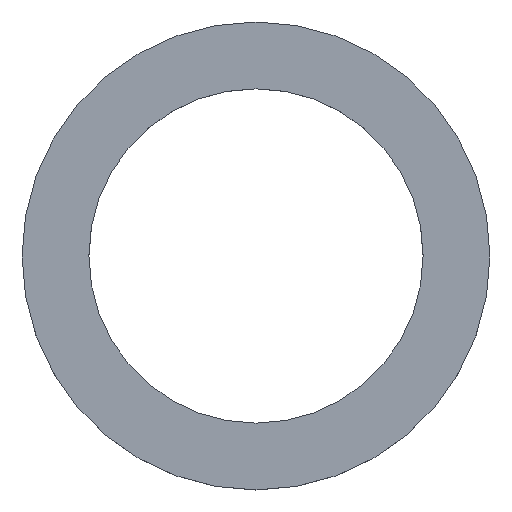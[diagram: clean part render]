
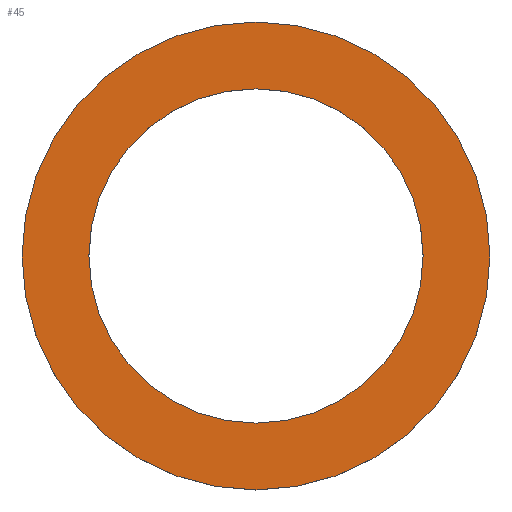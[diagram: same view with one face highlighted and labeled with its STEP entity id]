
A CAD part, top view. The second image highlights one B-rep face of the part: STEP entity #45.
In plain terms, the highlighted planar face has unit normal (0, 0, 1).
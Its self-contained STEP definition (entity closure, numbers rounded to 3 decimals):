
#42=PLANE('',#91);
#45=ADVANCED_FACE('',(#52,#53),#42,.T.);
#52=FACE_BOUND('',#60,.T.);
#53=FACE_BOUND('',#61,.T.);
#60=EDGE_LOOP('',(#68));
#61=EDGE_LOOP('',(#69));
#68=ORIENTED_EDGE('',*,*,#80,.T.);
#69=ORIENTED_EDGE('',*,*,#78,.T.);
#74=VERTEX_POINT('',#115);
#76=VERTEX_POINT('',#120);
#78=EDGE_CURVE('',#74,#74,#82,.T.);
#80=EDGE_CURVE('',#76,#76,#84,.T.);
#82=CIRCLE('',#87,8.75);
#84=CIRCLE('',#90,6.25);
#87=AXIS2_PLACEMENT_3D('',#114,#97,#98);
#90=AXIS2_PLACEMENT_3D('',#119,#103,#104);
#91=AXIS2_PLACEMENT_3D('',#121,#105,#106);
#97=DIRECTION('',(0.,0.,1.));
#98=DIRECTION('',(1.,0.,0.));
#103=DIRECTION('',(0.,0.,-1.));
#104=DIRECTION('',(-1.,0.,0.));
#105=DIRECTION('',(0.,0.,1.));
#106=DIRECTION('',(1.,0.,0.));
#114=CARTESIAN_POINT('',(0.,0.,1.3));
#115=CARTESIAN_POINT('',(8.75,0.,1.3));
#119=CARTESIAN_POINT('',(0.,0.,1.3));
#120=CARTESIAN_POINT('',(-6.25,0.,1.3));
#121=CARTESIAN_POINT('',(0.,0.,1.3));
